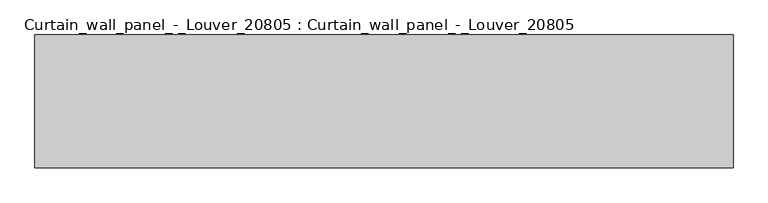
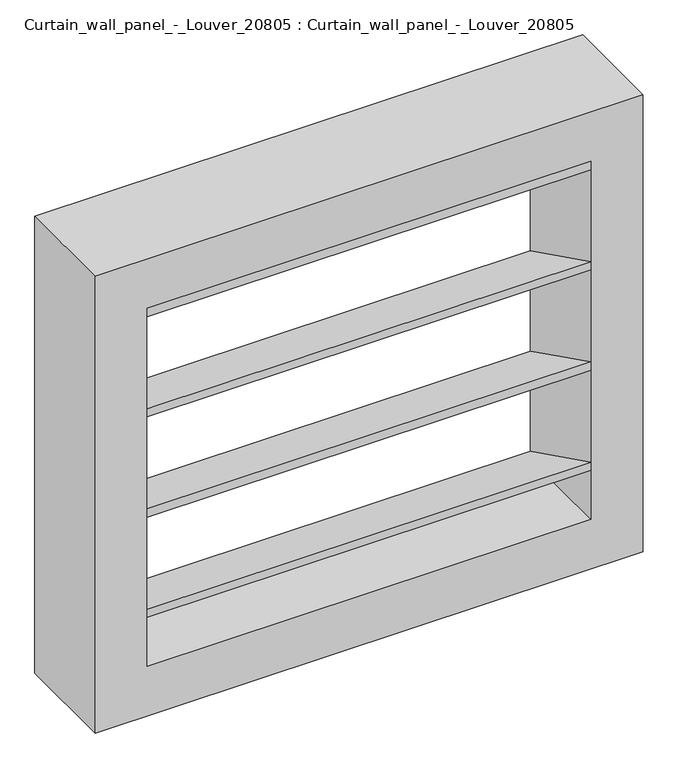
"""IFC4 building model written with IfcOpenShell, lengths in millimetres: plate geometry, Curtain_wall_panel_-_Louver_20805 : Curtain_wall_panel_-_Louver_20805."""

import ifcopenshell
import ifcopenshell.guid

model = None  # the IFC model being written
_history = None  # IfcOwnerHistory: only IFC2X3 demands one
_inside = {}  # id of a spatial element -> (the spatial element, [elements in it])
_under = {}  # id of a project, library or spatial element -> (it, [spatial elements below it])
_declared = {}  # id of a project -> (the project, [libraries it declares])
_typed = {}  # id of a type object -> (the type object, [elements of that type])
_made_of = {}  # id of a material, layer set ... -> (it, [elements and type objects made of it])


def new_model(schema):
    """Start an empty IFC model of exactly this schema.

    Asked for "IFC4X3", IfcOpenShell would pick the latest addendum, in which some entities
    have other attributes; the version numbers below select the first issue.
    IFC2X3 requires an IfcOwnerHistory on every rooted entity: one is made here for all.
    """
    global model, _history
    if schema == "IFC4X3":
        model = ifcopenshell.file(schema_version=(4, 3, 0, 0))
    else:
        model = ifcopenshell.file(schema=schema)
    _inside.clear()
    _under.clear()
    _declared.clear()
    _typed.clear()
    _made_of.clear()
    _history = None
    if model.schema == "IFC2X3":
        org = make("IfcOrganization", Name="unknown")
        user = make(
            "IfcPersonAndOrganization",
            ThePerson=make("IfcPerson", FamilyName="unknown"),
            TheOrganization=org,
        )
        app = make(
            "IfcApplication",
            ApplicationDeveloper=org,
            Version="unknown",
            ApplicationFullName="unknown",
            ApplicationIdentifier="unknown",
        )
        _history = make(
            "IfcOwnerHistory",
            OwningUser=user,
            OwningApplication=app,
            ChangeAction="ADDED",
            CreationDate=0,
        )
    return model


def make(cls, **values):
    """One entity of the class cls with the attributes given. An attribute that is None is left unset."""
    return model.create_entity(
        cls, **{name: value for name, value in values.items() if value is not None}
    )


def rooted(cls, **values):
    """An entity with a GlobalId (a new one), such as an element, a storey or a relation."""
    return make(cls, GlobalId=ifcopenshell.guid.new(), OwnerHistory=_history, **values)


def si_unit(unit_type, name, prefix=None):
    """IfcSIUnit, for example si_unit("LENGTHUNIT", "METRE", prefix="MILLI")."""
    return make("IfcSIUnit", UnitType=unit_type, Prefix=prefix, Name=name)


def assignment(units):
    """IfcUnitAssignment: the units of a project."""
    return None if units is None else make("IfcUnitAssignment", Units=units)


def point(xyz):
    """IfcCartesianPoint."""
    return None if xyz is None else make("IfcCartesianPoint", Coordinates=xyz)


def direction(xyz):
    """IfcDirection."""
    return None if xyz is None else make("IfcDirection", DirectionRatios=xyz)


def frame(location, z_axis=None, x_axis=None):
    """IfcAxis2Placement3D, a coordinate frame: its origin and axes. An axis left out is left unset."""
    return make(
        "IfcAxis2Placement3D",
        Location=point(location),
        Axis=direction(z_axis),
        RefDirection=direction(x_axis),
    )


def origin():
    """The frame at (0, 0, 0) with its axes left unset."""
    return frame((0.0, 0.0, 0.0))


def place(relative_to, where):
    """IfcLocalPlacement: puts the frame where relative to a parent placement (None: the world)."""
    return make(
        "IfcLocalPlacement", PlacementRelTo=relative_to, RelativePlacement=where
    )


def context(
    kind, dimensions, precision=None, world=None, true_north=None, identifier=None
):
    """IfcGeometricRepresentationContext, for example the 3D "Model" context."""
    return make(
        "IfcGeometricRepresentationContext",
        ContextIdentifier=identifier,
        ContextType=kind,
        CoordinateSpaceDimension=dimensions,
        Precision=precision,
        WorldCoordinateSystem=world,
        TrueNorth=true_north,
    )


def project(units=None, contexts=None):
    """IfcProject with its units and contexts."""
    return rooted(
        "IfcProject",
        Name="project",
        RepresentationContexts=contexts,
        UnitsInContext=assignment(units),
    )


def spatial(cls, under=None, at=None, **own):
    """A site, building, storey or space (cls), placed at a placement, below another one or the project."""
    s = rooted(cls, ObjectPlacement=at, **own)
    if under is not None:
        _under.setdefault(under.id(), (under, []))[1].append(s)
    return s


def polyline(points):
    """IfcPolyline through the points."""
    return make("IfcPolyline", Points=[point(p) for p in points])


def outline(outer, holes=None, kind="AREA"):
    """IfcArbitraryClosedProfileDef: a profile drawn as a closed curve; with holes, ...WithVoids."""
    if holes is None:
        return make("IfcArbitraryClosedProfileDef", ProfileType=kind, OuterCurve=outer)
    return make(
        "IfcArbitraryProfileDefWithVoids",
        ProfileType=kind,
        OuterCurve=outer,
        InnerCurves=holes,
    )


def extrude(swept, where, along, depth):
    """IfcExtrudedAreaSolid: the profile swept, set in the frame where, extruded along a direction by depth."""
    return make(
        "IfcExtrudedAreaSolid",
        SweptArea=swept,
        Position=where,
        ExtrudedDirection=direction(along),
        Depth=depth,
    )


def shape(context_of_items, identifier, shape_type, items):
    """IfcShapeRepresentation: the items that make up one representation, for example the "Body"."""
    return make(
        "IfcShapeRepresentation",
        ContextOfItems=context_of_items,
        RepresentationIdentifier=identifier,
        RepresentationType=shape_type,
        Items=items,
    )


def source(mapping_origin, context_of_items, identifier, shape_type, items):
    """IfcRepresentationMap: a shape defined once, which mapped items show again and again."""
    return make(
        "IfcRepresentationMap",
        MappingOrigin=mapping_origin,
        MappedRepresentation=shape(context_of_items, identifier, shape_type, items),
    )


def transform(
    local_origin,
    x_axis=None,
    y_axis=None,
    z_axis=None,
    scale=None,
    scale2=None,
    scale3=None,
    uniform=True,
):
    """IfcCartesianTransformationOperator3D, or its non-uniform kind. x_axis, y_axis, z_axis: its Axis1, 2, 3."""
    if uniform:
        return make(
            "IfcCartesianTransformationOperator3D",
            Axis1=direction(x_axis),
            Axis2=direction(y_axis),
            LocalOrigin=point(local_origin),
            Scale=scale,
            Axis3=direction(z_axis),
        )
    return make(
        "IfcCartesianTransformationOperator3DnonUniform",
        Axis1=direction(x_axis),
        Axis2=direction(y_axis),
        LocalOrigin=point(local_origin),
        Scale=scale,
        Axis3=direction(z_axis),
        Scale2=scale2,
        Scale3=scale3,
    )


def mapped(mapping_source, mapping_target):
    """IfcMappedItem: shows the shape of a source again, moved by a transform."""
    return make(
        "IfcMappedItem", MappingSource=mapping_source, MappingTarget=mapping_target
    )


def made_of(thing, what):
    """Note that an element or type object is made of a material, layer set ...; save() writes the relation."""
    if what is not None:
        _made_of.setdefault(what.id(), (what, []))[1].append(thing)
    return thing


def element(
    cls,
    number,
    at=None,
    inside=None,
    cuts=None,
    type_object=None,
    material=None,
    context=None,
    identifier="Body",
    shape_type=None,
    held_by="IfcProductDefinitionShape",
    body=None,
    shapes=None,
    **own,
):
    """One element of the class cls, such as IfcWall. Its Tag is "e" and its number.

    at: its placement. inside: the storey or other place that contains it. cuts: it is an
    opening in that element (IfcRelVoidsElement). A single representation is given by context,
    identifier, shape_type and body (its items); several are given by shapes. held_by: the class
    of the entity that holds the representations. save() writes the other relations.
    """
    e = rooted(cls, Tag="e%d" % number, ObjectPlacement=at, **own)
    if body is not None:
        shapes = [shape(context, identifier, shape_type, body)]
    if shapes is not None:
        e.Representation = make(held_by, Representations=shapes)
    if inside is not None:
        _inside.setdefault(inside.id(), (inside, []))[1].append(e)
    if cuts is not None:
        rooted(
            "IfcRelVoidsElement", RelatingBuildingElement=cuts, RelatedOpeningElement=e
        )
    if type_object is not None:
        _typed.setdefault(type_object.id(), (type_object, []))[1].append(e)
    return made_of(e, material)


def aggregate(whole, parts):
    """IfcRelAggregates: a whole, such as a stair, and the parts it consists of."""
    return rooted("IfcRelAggregates", RelatingObject=whole, RelatedObjects=parts)


def save(model, path):
    """Write the relations noted so far, then the file.

    IfcRelAggregates (storeys below a building ...), IfcRelContainedInSpatialStructure (elements
    in a storey), IfcRelDefinesByType, IfcRelAssociatesMaterial and IfcRelDeclares: one each for
    every whole, place, type object, material and project.
    """
    for whole, parts in _under.values():
        aggregate(whole, parts)
    for where, things in _inside.values():
        rooted(
            "IfcRelContainedInSpatialStructure",
            RelatedElements=things,
            RelatingStructure=where,
        )
    for kind, things in _typed.values():
        rooted("IfcRelDefinesByType", RelatedObjects=things, RelatingType=kind)
    for what, things in _made_of.values():
        rooted("IfcRelAssociatesMaterial", RelatedObjects=things, RelatingMaterial=what)
    for by, libraries in _declared.values():
        rooted("IfcRelDeclares", RelatingContext=by, RelatedDefinitions=libraries)
    model.write(path)


def curtain_wall_panel_louver_20805_curtain_wall_panel_louver_4af505d4(model_context):
    return source(origin(), model_context, "Body", "SweptSolid", [
        extrude(outline(polyline([(-200.0, 605.2950441), (-200.0, 622.044977), (0.0, 522.6599789), (0.0, 505.910046), (-200.0, 605.2950441)])), frame((-425.0, 0.0, 0.0), z_axis=(1.0, 0.0, 0.0), x_axis=(0.0, 1.0, 0.0)), (0.0, 0.0, 1.0), 850.0),
        extrude(outline(polyline([(-200.0, 402.3400211), (-200.0, 419.089954), (0.0, 319.7049559), (0.0, 302.955023), (-200.0, 402.3400211)])), frame((-425.0, 0.0, 0.0), z_axis=(1.0, 0.0, 0.0), x_axis=(0.0, 1.0, 0.0)), (0.0, 0.0, 1.0), 850.0),
        extrude(outline(polyline([(-200.0, 808.2500672), (-200.0, 825.0), (0.0, 725.6150019), (0.0, 708.8650691), (-200.0, 808.2500672)])), frame((-425.0, 0.0, 0.0), z_axis=(1.0, 0.0, 0.0), x_axis=(0.0, 1.0, 0.0)), (0.0, 0.0, 1.0), 850.0),
        extrude(outline(polyline([(-200.0, 199.3849981), (-200.0, 216.1349309), (0.0, 116.7499328), (0.0, 100.0), (-200.0, 199.3849981)])), frame((-425.0, 0.0, 0.0), z_axis=(1.0, 0.0, 0.0), x_axis=(0.0, 1.0, 0.0)), (0.0, 0.0, 1.0), 850.0),
        extrude(outline(polyline([(925.0, -525.0), (0.0, -525.0), (0.0, 525.0), (925.0, 525.0), (925.0, -525.0)]), holes=[polyline([(825.0, -425.0), (825.0, 425.0), (100.0, 425.0), (100.0, -425.0), (825.0, -425.0)])]), frame((0.0, -200.0, 0.0), z_axis=(0.0, 1.0, 0.0), x_axis=(0.0, 0.0, 1.0)), (0.0, 0.0, 1.0), 200.0),
    ])


if __name__ == "__main__":
    model = new_model("IFC4")
    model_context = context("Model", 3, world=origin())
    ifc_project = project(units=[si_unit("LENGTHUNIT", "METRE", prefix="MILLI")], contexts=[model_context])
    site = spatial("IfcSite", under=ifc_project)
    building = spatial("IfcBuilding", under=site)
    placement = place(None, origin())
    curtain_wall_panel_louver_20805_curtain_wall_panel_louver_shape = curtain_wall_panel_louver_20805_curtain_wall_panel_louver_4af505d4(model_context)
    element("IfcPlate", 1, ObjectType="Curtain_wall_panel_-_Louver_20805 : Curtain_wall_panel_-_Louver_20805", at=placement, inside=building, context=model_context, shape_type="MappedRepresentation", body=[
        mapped(curtain_wall_panel_louver_20805_curtain_wall_panel_louver_shape, transform((0.0, 0.0, 0.0), x_axis=(1.0, 0.0, 0.0), y_axis=(0.0, 1.0, 0.0), z_axis=(0.0, 0.0, 1.0))),
    ])
    save(model, "model.ifc")
